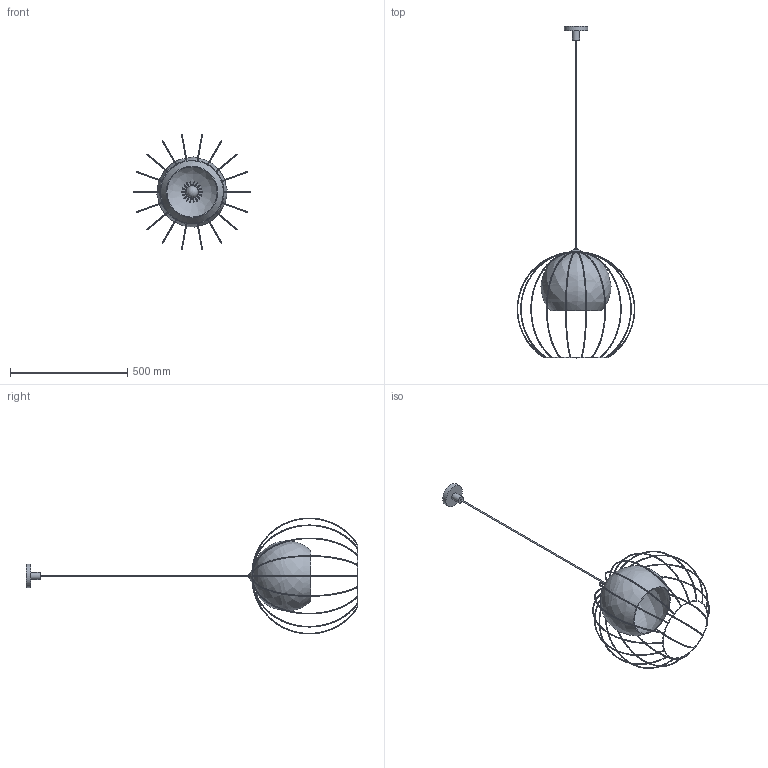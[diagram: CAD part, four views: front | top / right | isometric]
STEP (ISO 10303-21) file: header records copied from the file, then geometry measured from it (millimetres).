
FILE_DESCRIPTION(/* description */ (''),/* implementation_level */ '2;1');
FILE_NAME(/* name */ 'D:\TK Lighting\Universo\Universo 2552.stp',/* time_stamp */ '2020-12-18T16:01:51+01:00',/* author */ ('Admin'),/* organization */ (''),/* preprocessor_version */ 'ST-DEVELOPER v16.5',/* originating_system */ 'Autodesk Inventor 2017',/* authorisation */ '');
FILE_SCHEMA (('AUTOMOTIVE_DESIGN { 1 0 10303 214 3 1 1 }'));
Products named in the file (5): Universo 2552; ażur 5057; Klosz 5057; Zarowka; Zawiesie 2552
Assembly tree (4 placements, depth 2):
  Universo 2552
    ażur 5057
    Klosz 5057
    Zarowka
    Zawiesie 2552
Bounding box: 502.51 x 1417.48 x 494.88 mm (x, y, z)
Volume: 778061.9 mm3; surface area: 641747.2 mm2
Topology: 6 solids, 6 shells, 67 faces, 176 edges, 124 vertices
Faces by surface type: plane 32, bspline 20, cylinder 11, sphere 3, torus 1
Full cylindrical faces by diameter (mm): 5 x1, 8 x3, 10 x1, 26 x1, 30 x3, 32 x1, 100 x1
Entity records: 4310 total; most frequent: CARTESIAN_POINT 2606, ORIENTED_EDGE 314, DIRECTION 258, EDGE_CURVE 156, EDGE_LOOP 120, AXIS2_PLACEMENT_3D 120, VERTEX_POINT 118, B_SPLINE_CURVE_WITH_KNOTS 72
